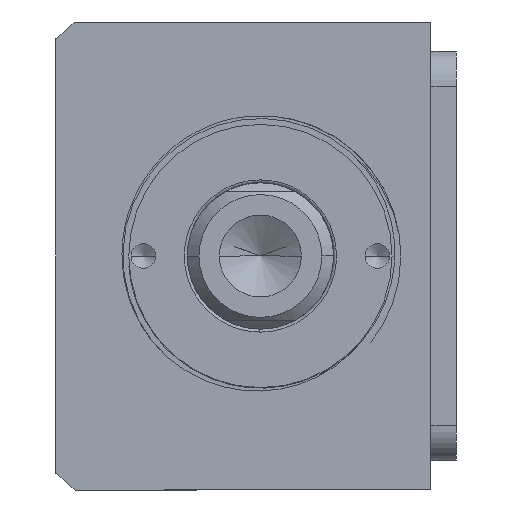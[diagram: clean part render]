
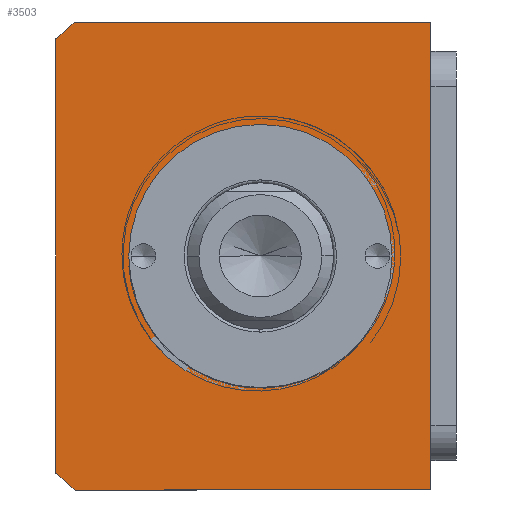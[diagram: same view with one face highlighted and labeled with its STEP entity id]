
A CAD part, front view. The second image highlights one B-rep face of the part: STEP entity #3503.
In plain terms, the highlighted planar face has unit normal (0, -1, 0) as drawn and (0, 0, 1) by its records, which use the part's own axes.
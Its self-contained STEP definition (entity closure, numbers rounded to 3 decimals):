
#126 = CARTESIAN_POINT ( 'NONE',  ( 37.094, -32., 120. ) ) ;
#137 = CARTESIAN_POINT ( 'NONE',  ( -40., 32., 120. ) ) ;
#226 = VECTOR ( 'NONE', #7808, 1000. ) ;
#668 = EDGE_CURVE ( 'NONE', #965, #3048, #7938, .T. ) ;
#965 = VERTEX_POINT ( 'NONE', #3763 ) ;
#976 = DIRECTION ( 'NONE',  ( -1., 0., 0. ) ) ;
#985 = LINE ( 'NONE', #8598, #7064 ) ;
#1078 = VERTEX_POINT ( 'NONE', #1345 ) ;
#1234 = CARTESIAN_POINT ( 'NONE',  ( -40., 32., 120. ) ) ;
#1345 = CARTESIAN_POINT ( 'NONE',  ( -37.094, -32., 120. ) ) ;
#1402 = FACE_BOUND ( 'NONE', #9304, .T. ) ;
#1680 = FACE_OUTER_BOUND ( 'NONE', #5934, .T. ) ;
#1842 = EDGE_CURVE ( 'NONE', #4325, #1999, #6586, .T. ) ;
#1873 = ORIENTED_EDGE ( 'NONE', *, *, #7322, .T. ) ;
#1914 = CARTESIAN_POINT ( 'NONE',  ( 0., 3., 120. ) ) ;
#1999 = VERTEX_POINT ( 'NONE', #2429 ) ;
#2040 = CARTESIAN_POINT ( 'NONE',  ( -40., 32., 120. ) ) ;
#2132 = ORIENTED_EDGE ( 'NONE', *, *, #6947, .T. ) ;
#2419 = ORIENTED_EDGE ( 'NONE', *, *, #10399, .T. ) ;
#2429 = CARTESIAN_POINT ( 'NONE',  ( -40., -28.639, 120. ) ) ;
#2475 = VERTEX_POINT ( 'NONE', #7331 ) ;
#2722 = LINE ( 'NONE', #10024, #6847 ) ;
#2766 = DIRECTION ( 'NONE',  ( 1., 0., 0. ) ) ;
#2891 = VERTEX_POINT ( 'NONE', #8513 ) ;
#3048 = VERTEX_POINT ( 'NONE', #6182 ) ;
#3064 = CARTESIAN_POINT ( 'NONE',  ( 0., 3., 120. ) ) ;
#3467 = ORIENTED_EDGE ( 'NONE', *, *, #3993, .T. ) ;
#3503 = ADVANCED_FACE ( 'NONE', ( #1402, #1680 ), #7120, .T. ) ;
#3558 = ORIENTED_EDGE ( 'NONE', *, *, #10241, .T. ) ;
#3733 = ORIENTED_EDGE ( 'NONE', *, *, #1842, .T. ) ;
#3763 = CARTESIAN_POINT ( 'NONE',  ( -22.5, 3., 120. ) ) ;
#3886 = DIRECTION ( 'NONE',  ( 1., 0., 0. ) ) ;
#3993 = EDGE_CURVE ( 'NONE', #1078, #9591, #2722, .T. ) ;
#3998 = ORIENTED_EDGE ( 'NONE', *, *, #668, .F. ) ;
#4325 = VERTEX_POINT ( 'NONE', #1234 ) ;
#4523 = DIRECTION ( 'NONE',  ( 1., 0., 0. ) ) ;
#4651 = CARTESIAN_POINT ( 'NONE',  ( 0., 0., 120. ) ) ;
#4842 = CARTESIAN_POINT ( 'NONE',  ( 0., 3., 120. ) ) ;
#4970 = ORIENTED_EDGE ( 'NONE', *, *, #7128, .F. ) ;
#5241 = VECTOR ( 'NONE', #976, 1000. ) ;
#5490 = DIRECTION ( 'NONE',  ( 1., 0., 0. ) ) ;
#5652 = CIRCLE ( 'NONE', #6411, 51. ) ;
#5689 = DIRECTION ( 'NONE',  ( 1., 0., 0. ) ) ;
#5934 = EDGE_LOOP ( 'NONE', ( #3733, #3558, #3467, #2132, #2419, #1873 ) ) ;
#6182 = CARTESIAN_POINT ( 'NONE',  ( 22.5, 3., 120. ) ) ;
#6411 = AXIS2_PLACEMENT_3D ( 'NONE', #1914, #7721, #2766 ) ;
#6586 = LINE ( 'NONE', #2040, #226 ) ;
#6847 = VECTOR ( 'NONE', #8408, 1000. ) ;
#6947 = EDGE_CURVE ( 'NONE', #9591, #2891, #8494, .T. ) ;
#7064 = VECTOR ( 'NONE', #8570, 1000. ) ;
#7120 = PLANE ( 'NONE',  #8765 ) ;
#7128 = EDGE_CURVE ( 'NONE', #3048, #965, #9921, .T. ) ;
#7228 = DIRECTION ( 'NONE',  ( 0., 0., 1. ) ) ;
#7282 = AXIS2_PLACEMENT_3D ( 'NONE', #7679, #7228, #4523 ) ;
#7322 = EDGE_CURVE ( 'NONE', #2475, #4325, #9386, .T. ) ;
#7331 = CARTESIAN_POINT ( 'NONE',  ( 40., 32., 120. ) ) ;
#7679 = CARTESIAN_POINT ( 'NONE',  ( 0., 3., 120. ) ) ;
#7721 = DIRECTION ( 'NONE',  ( 0., 0., 1. ) ) ;
#7808 = DIRECTION ( 'NONE',  ( 0., -1., 0. ) ) ;
#7938 = CIRCLE ( 'NONE', #7282, 22.5 ) ;
#8309 = AXIS2_PLACEMENT_3D ( 'NONE', #3064, #8825, #3886 ) ;
#8408 = DIRECTION ( 'NONE',  ( 1., 0., 0. ) ) ;
#8494 = CIRCLE ( 'NONE', #8309, 51. ) ;
#8513 = CARTESIAN_POINT ( 'NONE',  ( 40., -28.639, 120. ) ) ;
#8570 = DIRECTION ( 'NONE',  ( 0., 1., 0. ) ) ;
#8598 = CARTESIAN_POINT ( 'NONE',  ( 40., 32., 120. ) ) ;
#8765 = AXIS2_PLACEMENT_3D ( 'NONE', #4651, #10446, #5490 ) ;
#8825 = DIRECTION ( 'NONE',  ( 0., 0., 1. ) ) ;
#9304 = EDGE_LOOP ( 'NONE', ( #4970, #3998 ) ) ;
#9386 = LINE ( 'NONE', #137, #5241 ) ;
#9591 = VERTEX_POINT ( 'NONE', #126 ) ;
#9921 = CIRCLE ( 'NONE', #10501, 22.5 ) ;
#10024 = CARTESIAN_POINT ( 'NONE',  ( -40., -32., 120. ) ) ;
#10241 = EDGE_CURVE ( 'NONE', #1999, #1078, #5652, .T. ) ;
#10399 = EDGE_CURVE ( 'NONE', #2891, #2475, #985, .T. ) ;
#10446 = DIRECTION ( 'NONE',  ( 0., 0., 1. ) ) ;
#10501 = AXIS2_PLACEMENT_3D ( 'NONE', #4842, #10631, #5689 ) ;
#10631 = DIRECTION ( 'NONE',  ( 0., 0., 1. ) ) ;
